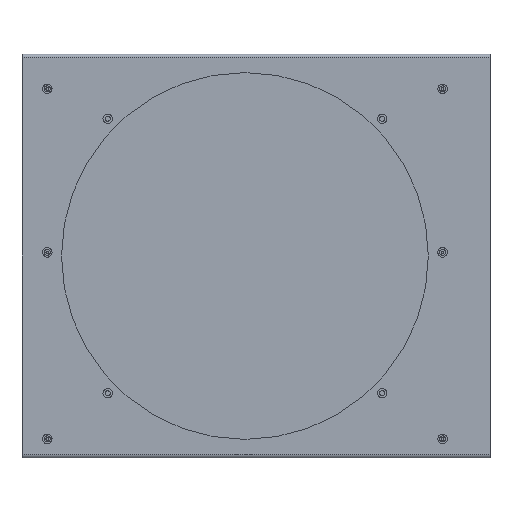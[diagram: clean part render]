
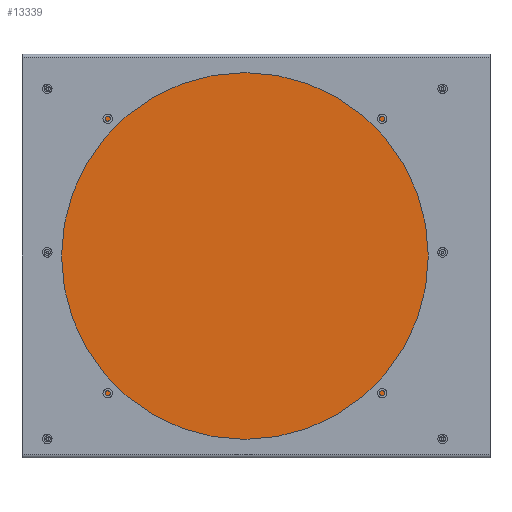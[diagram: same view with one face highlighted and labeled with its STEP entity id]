
A CAD part, left-side view. The second image highlights one B-rep face of the part: STEP entity #13339.
In plain terms, the highlighted planar face has unit normal (-1, 0, 0).
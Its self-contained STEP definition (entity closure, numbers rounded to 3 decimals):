
#538 = VECTOR ( 'NONE', #13142, 1000. ) ;
#736 = CARTESIAN_POINT ( 'NONE',  ( -21.65, -116., -125. ) ) ;
#1878 = EDGE_CURVE ( 'NONE', #19100, #4700, #8147, .T. ) ;
#2015 = VERTEX_POINT ( 'NONE', #15971 ) ;
#2158 = DIRECTION ( 'NONE',  ( 0., 0., 1. ) ) ;
#2857 = ORIENTED_EDGE ( 'NONE', *, *, #17563, .T. ) ;
#3248 = VECTOR ( 'NONE', #4116, 1000. ) ;
#3303 = CARTESIAN_POINT ( 'NONE',  ( -21.65, -116., -125. ) ) ;
#4116 = DIRECTION ( 'NONE',  ( 0., 0., 1. ) ) ;
#4165 = ORIENTED_EDGE ( 'NONE', *, *, #11899, .T. ) ;
#4483 = VECTOR ( 'NONE', #19567, 1000. ) ;
#4700 = VERTEX_POINT ( 'NONE', #8729 ) ;
#4834 = CARTESIAN_POINT ( 'NONE',  ( -21.65, 116., 125. ) ) ;
#5380 = PLANE ( 'NONE',  #8865 ) ;
#5382 = DIRECTION ( 'NONE',  ( 0., 0., -1. ) ) ;
#6129 = VECTOR ( 'NONE', #5382, 1000. ) ;
#7054 = CARTESIAN_POINT ( 'NONE',  ( -21.65, -116., -125. ) ) ;
#7377 = EDGE_LOOP ( 'NONE', ( #16447, #17512, #4165, #2857 ) ) ;
#8147 = LINE ( 'NONE', #736, #3248 ) ;
#8341 = LINE ( 'NONE', #11395, #4483 ) ;
#8729 = CARTESIAN_POINT ( 'NONE',  ( -21.65, -116., 125. ) ) ;
#8778 = LINE ( 'NONE', #3303, #538 ) ;
#8865 = AXIS2_PLACEMENT_3D ( 'NONE', #7054, #12002, #2158 ) ;
#11395 = CARTESIAN_POINT ( 'NONE',  ( -21.65, -116., 125. ) ) ;
#11899 = EDGE_CURVE ( 'NONE', #14320, #2015, #14353, .T. ) ;
#12002 = DIRECTION ( 'NONE',  ( -1., 0., 0. ) ) ;
#13142 = DIRECTION ( 'NONE',  ( 0., -1., 0. ) ) ;
#13339 = ADVANCED_FACE ( 'NONE', ( #18646 ), #5380, .T. ) ;
#14320 = VERTEX_POINT ( 'NONE', #4834 ) ;
#14353 = LINE ( 'NONE', #16884, #6129 ) ;
#15413 = EDGE_CURVE ( 'NONE', #4700, #14320, #8341, .T. ) ;
#15971 = CARTESIAN_POINT ( 'NONE',  ( -21.65, 116., -125. ) ) ;
#16447 = ORIENTED_EDGE ( 'NONE', *, *, #1878, .T. ) ;
#16884 = CARTESIAN_POINT ( 'NONE',  ( -21.65, 116., -125. ) ) ;
#17512 = ORIENTED_EDGE ( 'NONE', *, *, #15413, .T. ) ;
#17563 = EDGE_CURVE ( 'NONE', #2015, #19100, #8778, .T. ) ;
#18646 = FACE_OUTER_BOUND ( 'NONE', #7377, .T. ) ;
#19100 = VERTEX_POINT ( 'NONE', #20160 ) ;
#19567 = DIRECTION ( 'NONE',  ( 0., 1., 0. ) ) ;
#20160 = CARTESIAN_POINT ( 'NONE',  ( -21.65, -116., -125. ) ) ;
